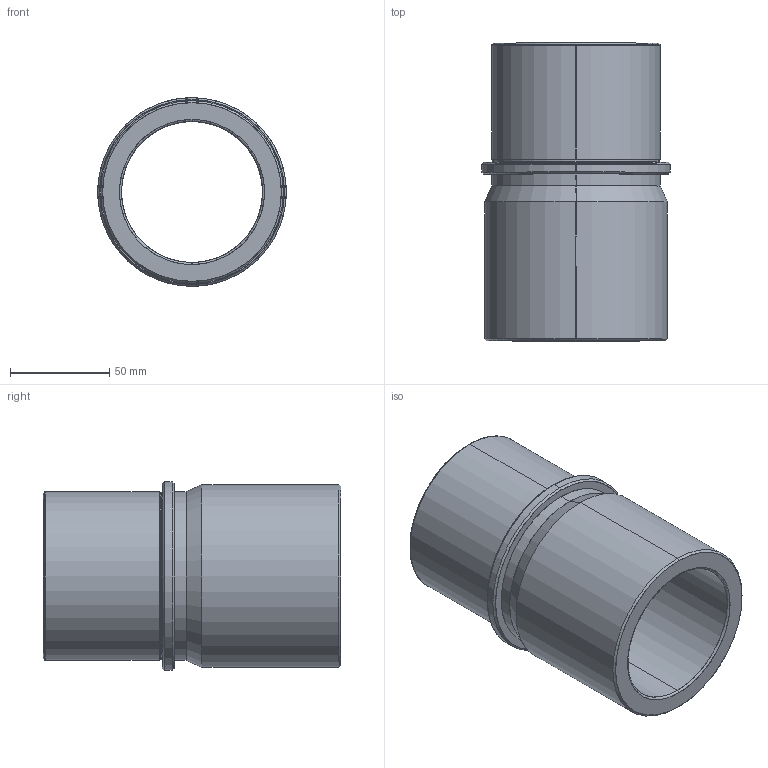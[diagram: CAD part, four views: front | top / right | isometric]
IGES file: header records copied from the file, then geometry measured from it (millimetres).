
Start section: SolidWorks IGES file using analytic representation for surfaces
Global section: file name: D:\Belgelerim\solid çalýþmalarým\D27 ÝGS\D27_63X150.IGS; native system: SolidWorks 2008; preprocessor: SolidWorks 2008; author: kalite-mail; date: 080707.135418; units: millimetre
Bounding box: 95 x 150 x 95 mm (x, y, z)
Surface area: 82079.8 mm2 (no closed solid volume)
Topology: 0 solids, 0 shells, 40 faces, 904 edges, 904 vertices
Faces by surface type: revolution 22, bspline 18
